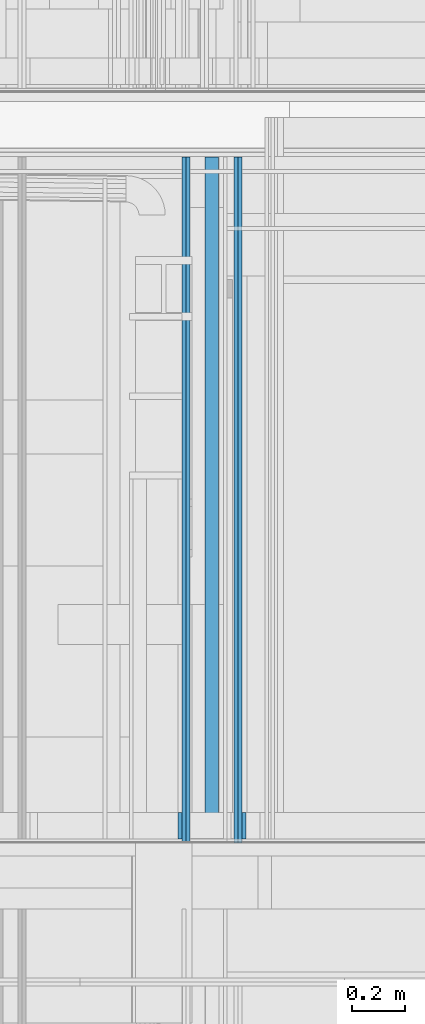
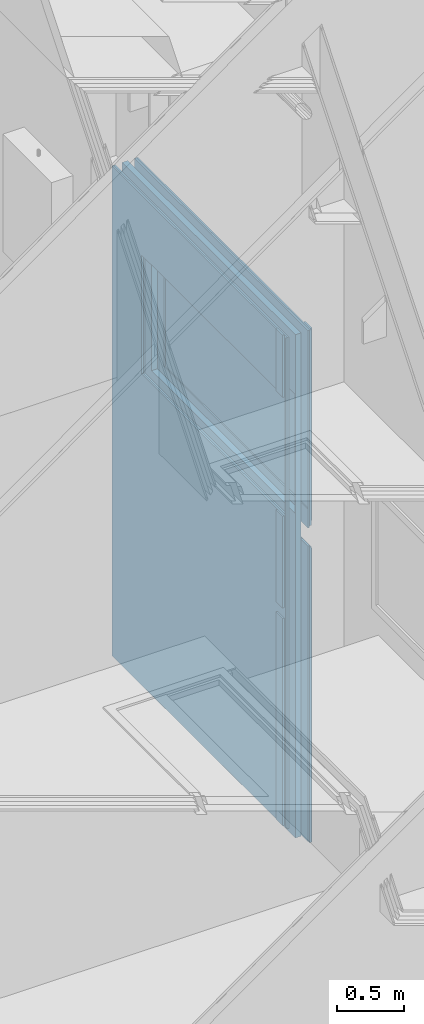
# One storey, part 91 of 583: 11 building element parts, 1 opening, 1 element without a shape of its own.
"""IFC2X3 building model written with IfcOpenShell, lengths in metres."""

from ifc_helpers import new_model, entity, si_unit, converted_unit, derived_unit, money_unit, direction, frame, frame_2d, origin_with_axes, place, context, subcontext, project, spatial, polyline, rectangle, outline, extrude, material, type_object, element, aggregate, save


model = new_model("IFC2X3")

# Units and contexts
model_context = context("Model", 3, precision=1e-05, world=origin_with_axes(), true_north=direction((0.0, 1.0)))
body_context = subcontext(model_context, "Body", "Model", "MODEL_VIEW", scale=1.0)
ifc_project = project(units=[si_unit("LENGTHUNIT", "METRE"), si_unit("AREAUNIT", "SQUARE_METRE"), si_unit("VOLUMEUNIT", "CUBIC_METRE"), si_unit("ABSORBEDDOSEUNIT", "GRAY"), si_unit("AMOUNTOFSUBSTANCEUNIT", "MOLE"), si_unit("DOSEEQUIVALENTUNIT", "SIEVERT"), si_unit("ELECTRICCAPACITANCEUNIT", "FARAD"), si_unit("ELECTRICCHARGEUNIT", "COULOMB"), si_unit("ELECTRICCONDUCTANCEUNIT", "SIEMENS"), si_unit("ELECTRICCURRENTUNIT", "AMPERE"), si_unit("ELECTRICRESISTANCEUNIT", "OHM"), si_unit("ELECTRICVOLTAGEUNIT", "VOLT"), si_unit("ENERGYUNIT", "JOULE"), si_unit("FORCEUNIT", "NEWTON"), si_unit("FREQUENCYUNIT", "HERTZ"), si_unit("ILLUMINANCEUNIT", "LUX"), si_unit("INDUCTANCEUNIT", "HENRY"), si_unit("LUMINOUSFLUXUNIT", "LUMEN"), si_unit("LUMINOUSINTENSITYUNIT", "CANDELA"), si_unit("MAGNETICFLUXDENSITYUNIT", "TESLA"), si_unit("MAGNETICFLUXUNIT", "WEBER"), si_unit("MASSUNIT", "GRAM"), converted_unit("PLANEANGLEUNIT", "degree", entity("IfcReal", 0.0174532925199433), si_unit("PLANEANGLEUNIT", "RADIAN"), dimensions=[0, 0, 0, 0, 0, 0, 0]), si_unit("POWERUNIT", "WATT"), si_unit("PRESSUREUNIT", "PASCAL"), si_unit("RADIOACTIVITYUNIT", "BECQUEREL"), si_unit("SOLIDANGLEUNIT", "STERADIAN"), si_unit("THERMODYNAMICTEMPERATUREUNIT", "KELVIN"), si_unit("TIMEUNIT", "SECOND"), derived_unit("ACCELERATIONUNIT", [(si_unit("LENGTHUNIT", "METRE"), 1), (si_unit("TIMEUNIT", "SECOND"), -2)]), derived_unit("ANGULARVELOCITYUNIT", [(converted_unit("PLANEANGLEUNIT", "degree", entity("IfcReal", 0.0174532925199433), si_unit("PLANEANGLEUNIT", "RADIAN"), dimensions=[0, 0, 0, 0, 0, 0, 0]), 1), (si_unit("TIMEUNIT", "SECOND"), -1)]), derived_unit("CURVATUREUNIT", [(converted_unit("PLANEANGLEUNIT", "degree", entity("IfcReal", 0.0174532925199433), si_unit("PLANEANGLEUNIT", "RADIAN"), dimensions=[0, 0, 0, 0, 0, 0, 0]), 1), (si_unit("LENGTHUNIT", "METRE"), -1)]), derived_unit("DYNAMICVISCOSITYUNIT", [(si_unit("PRESSUREUNIT", "PASCAL"), 1), (si_unit("TIMEUNIT", "SECOND"), 1)]), derived_unit("HEATFLUXDENSITYUNIT", [(si_unit("POWERUNIT", "WATT"), 1), (si_unit("LENGTHUNIT", "METRE"), -2)]), derived_unit("HEATINGVALUEUNIT", [(si_unit("ENERGYUNIT", "JOULE"), 1), (si_unit("MASSUNIT", "GRAM"), -1)]), derived_unit("INTEGERCOUNTRATEUNIT", [(si_unit("TIMEUNIT", "SECOND"), -1)]), derived_unit("IONCONCENTRATIONUNIT", [(si_unit("MASSUNIT", "GRAM"), 1), (si_unit("VOLUMEUNIT", "CUBIC_METRE"), -1)]), derived_unit("ISOTHERMALMOISTURECAPACITYUNIT", [(si_unit("VOLUMEUNIT", "CUBIC_METRE"), 1), (si_unit("MASSUNIT", "GRAM"), -1)]), derived_unit("KINEMATICVISCOSITYUNIT", [(si_unit("AREAUNIT", "SQUARE_METRE"), 1), (si_unit("TIMEUNIT", "SECOND"), -1)]), derived_unit("LINEARFORCEUNIT", [(si_unit("FORCEUNIT", "NEWTON"), 1), (si_unit("LENGTHUNIT", "METRE"), -1)]), derived_unit("LINEARMOMENTUNIT", [(si_unit("FORCEUNIT", "NEWTON"), 1), (si_unit("LENGTHUNIT", "METRE"), -1)]), derived_unit("LINEARSTIFFNESSUNIT", [(si_unit("FORCEUNIT", "NEWTON"), 1), (si_unit("LENGTHUNIT", "METRE"), -1)]), derived_unit("LINEARVELOCITYUNIT", [(si_unit("LENGTHUNIT", "METRE"), 1), (si_unit("TIMEUNIT", "SECOND"), -1)]), derived_unit("LUMINOUSINTENSITYDISTRIBUTIONUNIT", [(si_unit("LUMINOUSINTENSITYUNIT", "CANDELA"), 1), (si_unit("LUMINOUSFLUXUNIT", "LUMEN"), -1)]), derived_unit("MASSDENSITYUNIT", [(si_unit("MASSUNIT", "GRAM"), 1), (si_unit("VOLUMEUNIT", "CUBIC_METRE"), -1)]), derived_unit("MASSFLOWRATEUNIT", [(si_unit("MASSUNIT", "GRAM"), 1), (si_unit("TIMEUNIT", "SECOND"), -1)]), derived_unit("MASSPERLENGTHUNIT", [(si_unit("MASSUNIT", "GRAM"), 1), (si_unit("LENGTHUNIT", "METRE"), -1)]), derived_unit("MODULUSOFELASTICITYUNIT", [(si_unit("FORCEUNIT", "NEWTON"), 1), (si_unit("AREAUNIT", "SQUARE_METRE"), -1)]), derived_unit("MODULUSOFLINEARSUBGRADEREACTIONUNIT", [(si_unit("FORCEUNIT", "NEWTON"), 1), (si_unit("LENGTHUNIT", "METRE"), -2)]), derived_unit("MODULUSOFROTATIONALSUBGRADEREACTIONUNIT", [(si_unit("FORCEUNIT", "NEWTON"), 1), (si_unit("LENGTHUNIT", "METRE"), 1)]), derived_unit("MODULUSOFSUBGRADEREACTIONUNIT", [(si_unit("FORCEUNIT", "NEWTON"), 1), (si_unit("VOLUMEUNIT", "CUBIC_METRE"), -1)]), derived_unit("MOISTUREDIFFUSIVITYUNIT", [(si_unit("VOLUMEUNIT", "CUBIC_METRE"), 1), (si_unit("TIMEUNIT", "SECOND"), -1)]), derived_unit("MOLECULARWEIGHTUNIT", [(si_unit("MASSUNIT", "GRAM"), 1), (si_unit("AMOUNTOFSUBSTANCEUNIT", "MOLE"), -1)]), derived_unit("PLANARFORCEUNIT", [(si_unit("FORCEUNIT", "NEWTON"), 1), (si_unit("LENGTHUNIT", "METRE"), -2)]), derived_unit("ROTATIONALFREQUENCYUNIT", [(si_unit("TIMEUNIT", "SECOND"), -1)]), derived_unit("ROTATIONALMASSUNIT", [(si_unit("MASSUNIT", "GRAM"), 1), (si_unit("LENGTHUNIT", "METRE"), 2)]), derived_unit("ROTATIONALSTIFFNESSUNIT", [(si_unit("FORCEUNIT", "NEWTON"), 1), (si_unit("LENGTHUNIT", "METRE"), 1), (converted_unit("PLANEANGLEUNIT", "degree", entity("IfcReal", 0.0174532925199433), si_unit("PLANEANGLEUNIT", "RADIAN"), dimensions=[0, 0, 0, 0, 0, 0, 0]), -1)]), derived_unit("SECTIONAREAINTEGRALUNIT", [(si_unit("LENGTHUNIT", "METRE"), 5)]), derived_unit("SECTIONMODULUSUNIT", [(si_unit("LENGTHUNIT", "METRE"), 3)]), derived_unit("SHEARMODULUSUNIT", [(si_unit("FORCEUNIT", "NEWTON"), 1), (si_unit("AREAUNIT", "SQUARE_METRE"), -1)]), derived_unit("SOUNDPOWERUNIT", [(si_unit("ENERGYUNIT", "JOULE"), 1), (si_unit("TIMEUNIT", "SECOND"), -1)]), derived_unit("SPECIFICHEATCAPACITYUNIT", [(si_unit("FORCEUNIT", "NEWTON"), 1), (si_unit("MASSUNIT", "GRAM"), -1), (si_unit("THERMODYNAMICTEMPERATUREUNIT", "KELVIN"), -1)]), derived_unit("TEMPERATUREGRADIENTUNIT", [(si_unit("THERMODYNAMICTEMPERATUREUNIT", "KELVIN"), 1), (si_unit("LENGTHUNIT", "METRE"), -1)]), derived_unit("THERMALADMITTANCEUNIT", [(si_unit("POWERUNIT", "WATT"), 1), (si_unit("AREAUNIT", "SQUARE_METRE"), -1), (si_unit("THERMODYNAMICTEMPERATUREUNIT", "KELVIN"), -1)]), derived_unit("THERMALCONDUCTANCEUNIT", [(si_unit("POWERUNIT", "WATT"), 1), (si_unit("LENGTHUNIT", "METRE"), -1), (si_unit("THERMODYNAMICTEMPERATUREUNIT", "KELVIN"), -1)]), derived_unit("THERMALEXPANSIONCOEFFICIENTUNIT", [(si_unit("THERMODYNAMICTEMPERATUREUNIT", "KELVIN"), -1)]), derived_unit("THERMALRESISTANCEUNIT", [(si_unit("AREAUNIT", "SQUARE_METRE"), 1), (si_unit("POWERUNIT", "WATT"), -1)]), derived_unit("THERMALTRANSMITTANCEUNIT", [(si_unit("POWERUNIT", "WATT"), 1), (si_unit("AREAUNIT", "SQUARE_METRE"), -1), (si_unit("THERMODYNAMICTEMPERATUREUNIT", "KELVIN"), -1)]), derived_unit("TORQUEUNIT", [(si_unit("FORCEUNIT", "NEWTON"), 1), (si_unit("LENGTHUNIT", "METRE"), 1)]), derived_unit("VAPORPERMEABILITYUNIT", [(si_unit("MASSUNIT", "GRAM"), 1), (si_unit("TIMEUNIT", "SECOND"), -1)]), derived_unit("VOLUMETRICFLOWRATEUNIT", [(si_unit("VOLUMEUNIT", "CUBIC_METRE"), 1), (si_unit("TIMEUNIT", "SECOND"), -1)]), derived_unit("WARPINGCONSTANTUNIT", [(si_unit("LENGTHUNIT", "METRE"), 6)]), derived_unit("WARPINGMOMENTUNIT", [(si_unit("FORCEUNIT", "NEWTON"), 1), (si_unit("LENGTHUNIT", "METRE"), 2)]), money_unit("GBP")], contexts=[model_context])

# Site, building, storey
site_placement = place(None, origin_with_axes())
site = spatial("IfcSite", under=ifc_project, at=site_placement, Name="Site", CompositionType="ELEMENT")
building_placement = place(site_placement, origin_with_axes())
building = spatial("IfcBuilding", under=site, at=building_placement, Name="Building01", CompositionType="ELEMENT")
storey_placement = place(building_placement, frame((0.0, 0.0, 20.78), z_axis=(0.0, 0.0, 1.0), x_axis=(1.0, 0.0, 0.0)))
storey = spatial("IfcBuildingStorey", under=building, at=storey_placement, Name="RL", CompositionType="ELEMENT", Elevation=20.78)

# Wall, opening, building element parts
wall_type = type_object("IfcWallType", Name="SHE_A-Walls_Type01c_Partywall_225mm_twin_tall", PredefinedType="NOTDEFINED")
wall_placement = place(storey_placement, frame((5.117, 12.13, -11.72), z_axis=(0.0, 1.0, 0.0), x_axis=(0.0, 0.0, -1.0)))
wall = element("IfcWall", 1, at=wall_placement, inside=storey, type_object=wall_type, Name="1C", ObjectType="SHE_A-Walls_Type01c_Partywall_225mm_twin_tall")
opening_placement = place(wall_placement, frame((0.5455, 0.137, 0.004), z_axis=(0.0, 0.0, 1.0), x_axis=(1.0, 0.0, 0.0)))
element("IfcOpeningElement", 2, at=opening_placement, cuts=wall, Name="Opening", ObjectType="Opening", context=body_context, shape_type="SweptSolid", body=[
    extrude(rectangle(XDim=2.142, YDim=1.084, at=frame_2d((-0.542, 1.071), x_axis=(0.0, -1.0))), frame((0.0, -0.2055, 0.0), z_axis=(0.0, 1.0, 0.0), x_axis=(-1.0, 0.0, 0.0)), (0.0, 0.0, 1.0), 0.411),
])
ifc_material_1 = material(Name="A_BSUK_Insulation")
placement = place(wall_placement, origin_with_axes())
building_element_part_1 = element("IfcBuildingElementPart", 3, at=placement, material=ifc_material_1, Name="1", context=body_context, shape_type="SweptSolid", body=[
    extrude(rectangle(XDim=4.588, YDim=0.05, at=frame_2d((2.294, 0.025), x_axis=(-1.0, 0.0))), origin_with_axes(), (0.0, 0.0, 1.0), 2.59),
])
ifc_material_2 = material(Name="A_BSUK_Walls_Timber")
building_element_part_2 = element("IfcBuildingElementPart", 4, at=placement, material=ifc_material_2, Name="2", context=body_context, shape_type="SweptSolid", body=[
    extrude(rectangle(XDim=2.487536, YDim=0.015, at=frame_2d((1.221232, 0.1445), x_axis=(-1.0, 0.0))), frame((0.0, 0.0, 0.015), z_axis=(0.0, 0.0, 1.0), x_axis=(1.0, 0.0, 0.0)), (0.0, 0.0, 1.0), 0.1),
])
ifc_material_3 = material(Name="A_BSUK_WallInternal_Finishes_Plasterboard")
building_element_part_3 = element("IfcBuildingElementPart", 5, at=placement, material=ifc_material_3, Name="3", context=body_context, shape_type="SweptSolid", body=[
    extrude(rectangle(XDim=4.465, YDim=0.015, at=frame_2d((2.2325, 0.1295), x_axis=(-1.0, 0.0))), origin_with_axes(), (0.0, 0.0, 1.0), 2.59),
])
building_element_part_4 = element("IfcBuildingElementPart", 6, at=placement, material=ifc_material_3, Name="4", context=body_context, shape_type="SweptSolid", body=[
    extrude(rectangle(XDim=4.48, YDim=0.015, at=frame_2d((2.24, 0.1145), x_axis=(-1.0, 0.0))), origin_with_axes(), (0.0, 0.0, 1.0), 2.59),
])
building_element_part_5 = element("IfcBuildingElementPart", 7, at=placement, material=ifc_material_3, Name="5", context=body_context, shape_type="SweptSolid", body=[
    extrude(rectangle(XDim=1.800331, YDim=0.015, at=frame_2d((0.900166, -0.0655), x_axis=(-1.0, 0.0))), origin_with_axes(), (0.0, 0.0, 1.0), 2.59),
])
building_element_part_6 = element("IfcBuildingElementPart", 8, at=placement, material=ifc_material_3, Name="6", context=body_context, shape_type="SweptSolid", body=[
    extrude(rectangle(XDim=1.785331, YDim=0.015, at=frame_2d((0.892666, -0.0805), x_axis=(-1.0, 0.0))), origin_with_axes(), (0.0, 0.0, 1.0), 2.59),
])
building_element_part_7 = element("IfcBuildingElementPart", 9, at=placement, material=ifc_material_2, Name="7", context=body_context, shape_type="SweptSolid", body=[
    extrude(rectangle(XDim=1.755331, YDim=0.015, at=frame_2d((0.877666, -0.0955), x_axis=(-1.0, 0.0))), frame((0.0, 0.0, 0.015), z_axis=(0.0, 0.0, 1.0), x_axis=(1.0, 0.0, 0.0)), (0.0, 0.0, 1.0), 0.1),
])
building_element_part_8 = element("IfcBuildingElementPart", 10, at=placement, material=ifc_material_3, Name="8", context=body_context, shape_type="SweptSolid", body=[
    extrude(rectangle(XDim=2.694669, YDim=0.015, at=frame_2d((3.327666, -0.0805), x_axis=(-1.0, 0.0))), origin_with_axes(), (0.0, 0.0, 1.0), 2.59),
])
building_element_part_9 = element("IfcBuildingElementPart", 11, at=placement, material=ifc_material_3, Name="9", context=body_context, shape_type="SweptSolid", body=[
    extrude(rectangle(XDim=2.694669, YDim=0.015, at=frame_2d((3.312666, -0.0655), x_axis=(-1.0, 0.0))), origin_with_axes(), (0.0, 0.0, 1.0), 2.59),
])
building_element_part_10 = element("IfcBuildingElementPart", 12, at=placement, material=ifc_material_2, Name="10", context=body_context, shape_type="SweptSolid", body=[
    extrude(outline(polyline([(4.675, -0.088), (2.010331, -0.088), (2.010331, -0.103), (4.69, -0.103), (4.675, -0.088)])), frame((0.0, 0.0, 0.015), z_axis=(0.0, 0.0, 1.0), x_axis=(1.0, 0.0, 0.0)), (0.0, 0.0, 1.0), 0.1),
])
building_element_part_11 = element("IfcBuildingElementPart", 13, at=placement, material=ifc_material_2, Name="11", context=body_context, shape_type="SweptSolid", body=[
    extrude(rectangle(XDim=1.89, YDim=0.015, at=frame_2d((3.505, 0.1445), x_axis=(-1.0, 0.0))), frame((0.0, 0.0, 0.015), z_axis=(0.0, 0.0, 1.0), x_axis=(1.0, 0.0, 0.0)), (0.0, 0.0, 1.0), 0.1),
])
aggregate(wall, [building_element_part_1, building_element_part_2, building_element_part_3, building_element_part_4, building_element_part_5, building_element_part_6, building_element_part_7, building_element_part_8, building_element_part_9, building_element_part_10, building_element_part_11])

save(model, "model.ifc")
